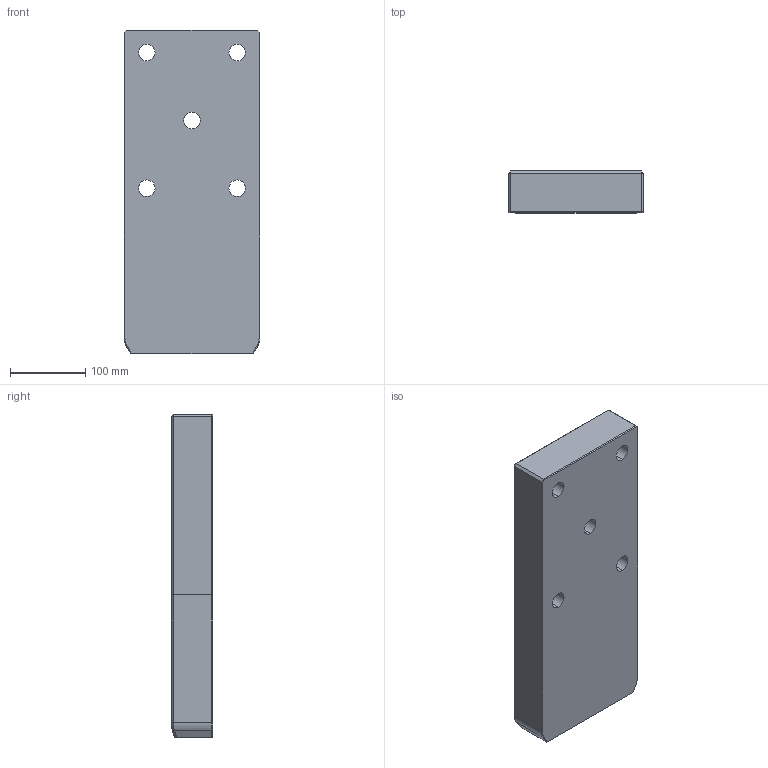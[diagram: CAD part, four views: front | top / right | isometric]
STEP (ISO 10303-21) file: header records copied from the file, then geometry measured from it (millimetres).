
FILE_DESCRIPTION((''),'2;1');
FILE_NAME('','2010-09-08T13:01:12+09:00',('misumi'),(''),'M/STEP i/f 1R2-14','CADmeister v5.1','');
FILE_SCHEMA(('AUTOMOTIVE_DESIGN'));
Length unit declared in the file: millimetre
Products named in the file (1): OGP180-430
Bounding box: 180 x 55 x 430 mm (x, y, z)
Volume: 4130843.7 mm3; surface area: 233945.1 mm2
Topology: 1 solids, 1 shells, 55 faces, 135 edges, 83 vertices
Faces by surface type: plane 32, cylinder 15, bspline 6, cone 2
Entity records: 1986 total; most frequent: CARTESIAN_POINT 611, ORIENTED_EDGE 260, DIRECTION 250, EDGE_CURVE 130, LINE 84, VECTOR 84, AXIS2_PLACEMENT_3D 83, VERTEX_POINT 78
